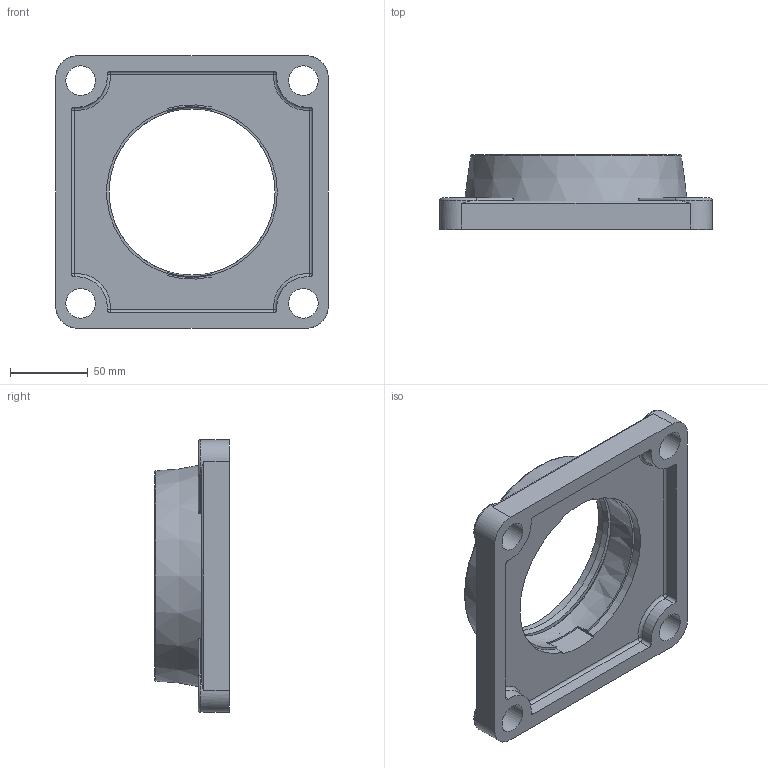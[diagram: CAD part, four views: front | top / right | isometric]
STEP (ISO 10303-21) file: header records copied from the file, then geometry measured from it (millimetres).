
FILE_DESCRIPTION(/* description */ (''),/* implementation_level */ '2;1');
FILE_NAME(/* name */ 'C:\MOJE SUBORY\03_Doplnenie 3D modelov\fgc\FG212.stp',/* time_stamp */ '2020-12-09T11:43:24+01:00',/* author */ ('OUPIONTEKM'),/* organization */ (''),/* preprocessor_version */ 'ST-DEVELOPER v18.1',/* originating_system */ 'Autodesk Inventor 2021',/* authorisation */ '');
FILE_SCHEMA (('AUTOMOTIVE_DESIGN { 1 0 10303 214 3 1 1 }'));
Length unit declared in the file: millimetre
Products named in the file (1): FG208
Bounding box: 175 x 48 x 175 mm (x, y, z)
Volume: 411666.6 mm3; surface area: 89551.6 mm2
Topology: 1 solids, 1 shells, 104 faces, 254 edges, 157 vertices
Faces by surface type: cylinder 46, plane 38, sphere 10, torus 9, cone 1
Full cylindrical faces by diameter (mm): 19 x4, 109.635 x1, 113.327 x1
Entity records: 3210 total; most frequent: CARTESIAN_POINT 642, DIRECTION 567, ORIENTED_EDGE 504, EDGE_CURVE 252, AXIS2_PLACEMENT_3D 226, VERTEX_POINT 157, EDGE_LOOP 121, CIRCLE 121
